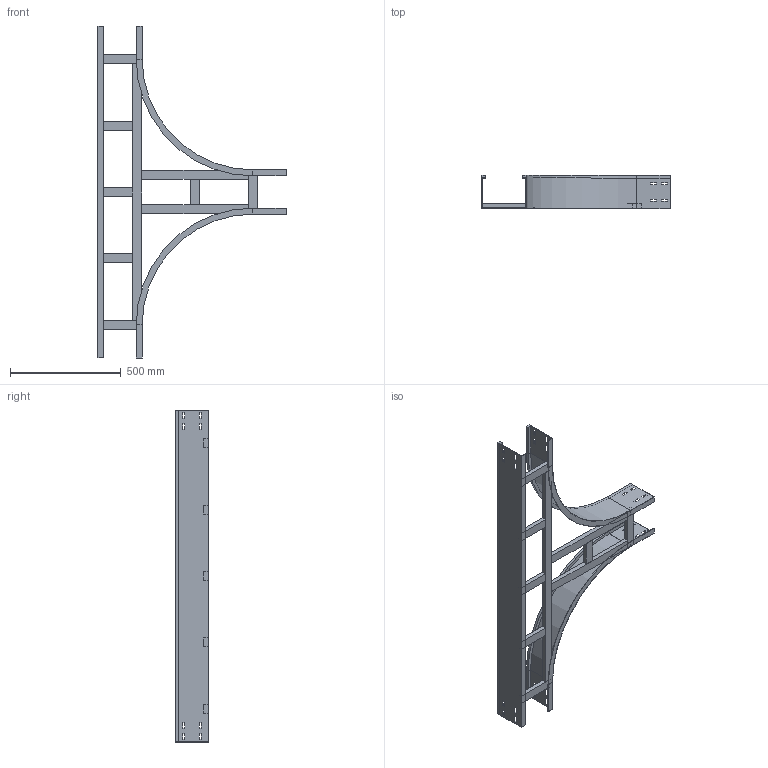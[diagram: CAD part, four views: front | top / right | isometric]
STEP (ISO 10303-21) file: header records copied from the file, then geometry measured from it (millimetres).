
FILE_DESCRIPTION (( 'STEP AP214' ), '1' );
FILE_NAME ('15J5F200.step', '2025-02-21T16:27:46', ( '' ), ( '' ), 'SwSTEP 2.0', 'SolidWorks 2023', '' );
FILE_SCHEMA (( 'AUTOMOTIVE_DESIGN' ));
Length unit declared in the file: millimetre
Products named in the file (8): TRAVERSINO_LONG._R500+200; LONGH.INTERNO 90°_H150_R500; TRAVERSINO_INTERMEDIO_R500+200; 15J5F200; LONGH.RETT_H150_R500+200; TRAVERSINO_200; TRAVERSINO_COPPIA_200; TRAVERSINO_VERT_R500
Assembly tree (13 placements, depth 2):
  15J5F200
    LONGH.INTERNO 90°_H150_R500  x2
    LONGH.RETT_H150_R500+200
    TRAVERSINO_200  x3
    TRAVERSINO_LONG._R500+200
    TRAVERSINO_INTERMEDIO_R500+200  x3
    TRAVERSINO_VERT_R500  x2
    TRAVERSINO_COPPIA_200
Bounding box: 850 x 150 x 1500 mm (x, y, z)
Volume: 4654948.6 mm3; surface area: 1832234.2 mm2
Topology: 13 solids, 13 shells, 218 faces, 544 edges, 352 vertices
Faces by surface type: plane 210, cylinder 8
Entity records: 4201 total; most frequent: CARTESIAN_POINT 694, ORIENTED_EDGE 664, DIRECTION 632, EDGE_CURVE 332, LINE 324, VECTOR 324, VERTEX_POINT 216, EDGE_LOOP 162
